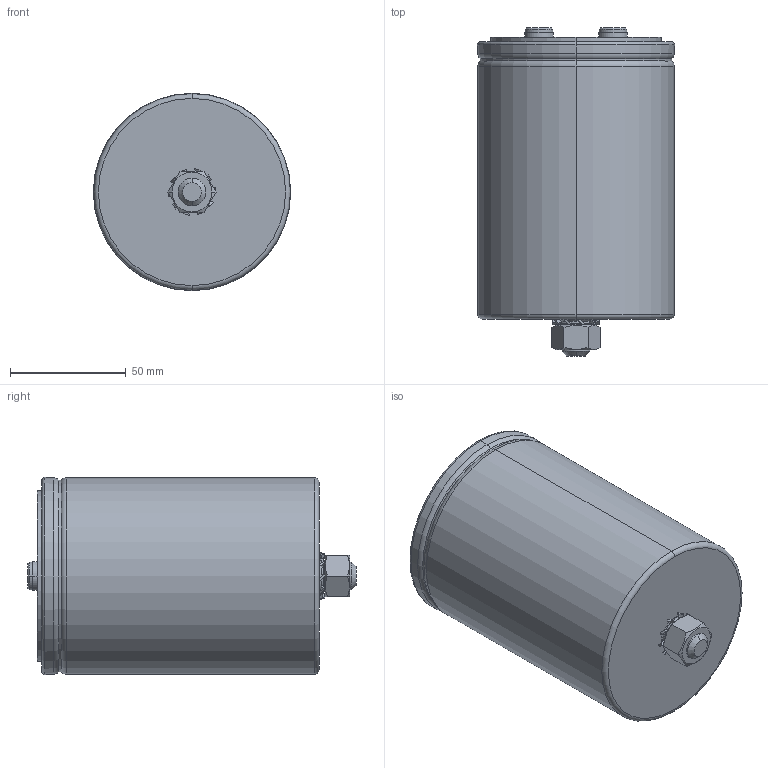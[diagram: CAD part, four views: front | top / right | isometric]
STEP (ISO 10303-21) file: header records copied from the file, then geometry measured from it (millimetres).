
FILE_DESCRIPTION (( 'STEP AP203' ), '1' );
FILE_NAME ('B25620x_85x120_126.STEP', '2021-07-01T01:47:30', ( '' ), ( '' ), 'SwSTEP 2.0', 'SolidWorks 2017', '' );
FILE_SCHEMA (( 'CONFIG_CONTROL_DESIGN' ));
Length unit declared in the file: millimetre
Products named in the file (1): B25620x_85x120_126
Bounding box: 85.4 x 142 x 85.4 mm (x, y, z)
Volume: 61485.2 mm3; surface area: 93083.6 mm2
Topology: 2 solids, 3 shells, 234 faces, 540 edges, 338 vertices
Faces by surface type: cylinder 85, plane 55, bspline 48, cone 30, torus 16
Entity records: 7453 total; most frequent: CARTESIAN_POINT 2221, ORIENTED_EDGE 1072, DIRECTION 1048, EDGE_CURVE 536, AXIS2_PLACEMENT_3D 423, VERTEX_POINT 338, EDGE_LOOP 266, CIRCLE 236
